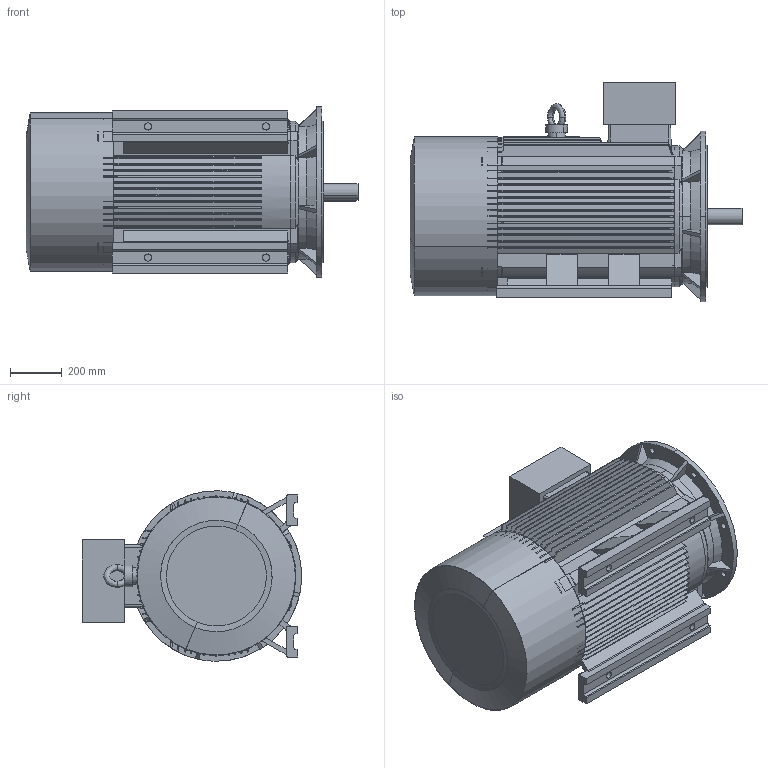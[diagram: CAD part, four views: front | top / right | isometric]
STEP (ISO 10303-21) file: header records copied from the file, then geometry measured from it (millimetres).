
FILE_DESCRIPTION (( 'STEP AP203' ), '1' );
FILE_NAME ('M3-315M-2p-FF-B35.STEP', '2019-07-16T10:04:09', ( '' ), ( '' ), 'SwSTEP 2.0', 'SolidWorks 2012', '' );
FILE_SCHEMA (( 'CONFIG_CONTROL_DESIGN' ));
Length unit declared in the file: millimetre
Products named in the file (7): Y2-315-2Íß¦ð-Ô©Ã_-¼+¤; Y2-315-2.4..6.8ﾀiﾍ_-ｼ+､; M3-315M-2p-FF-B35; Y2-315-2-ｦﾈﾁﾂ-ｩﾃ_-ｼ+､; 315ﾁｧ+ﾀ_-ｼ+､; Y2-315-2ﾍﾟ_-ｼ+､; +ｷﾎｨB3-315M_-ｼ+､
Assembly tree (6 placements, depth 2):
  M3-315M-2p-FF-B35
    Y2-315-2-ｦﾈﾁﾂ-ｩﾃ_-ｼ+､
    +ｷﾎｨB3-315M_-ｼ+､
    315ﾁｧ+ﾀ_-ｼ+､
    Y2-315-2ﾍﾟ_-ｼ+､
    Y2-315-2.4..6.8ﾀiﾍ_-ｼ+､
    Y2-315-2Íß¦ð-Ô©Ã_-¼+¤
Bounding box: 1286 x 849 x 660 mm (x, y, z)
Volume: 74950069.7 mm3; surface area: 9582043.2 mm2
Topology: 6 solids, 10 shells, 820 faces, 2271 edges, 1492 vertices
Faces by surface type: plane 359, cylinder 280, cone 112, bspline 69
Entity records: 32690 total; most frequent: CARTESIAN_POINT 11444, ORIENTED_EDGE 4542, DIRECTION 3973, EDGE_CURVE 2271, VERTEX_POINT 1492, AXIS2_PLACEMENT_3D 1481, VECTOR 1011, LINE 1011
